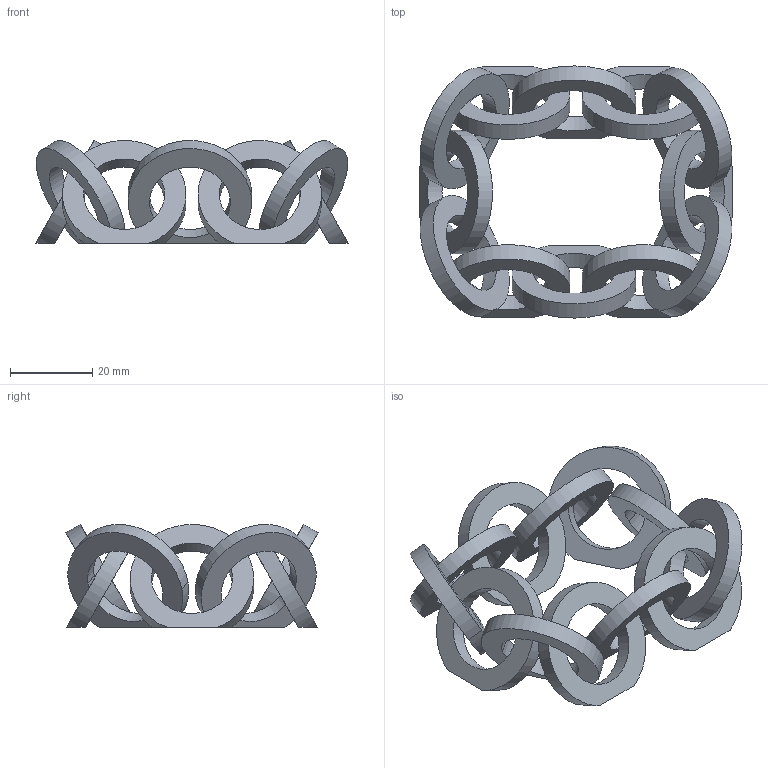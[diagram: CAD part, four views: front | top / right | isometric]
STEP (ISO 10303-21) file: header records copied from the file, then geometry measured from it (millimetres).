
FILE_DESCRIPTION(/* description */ (''),/* implementation_level */ '2;1');
FILE_NAME(/* name */ 'rings2',/* time_stamp */ '2010-05-27T20:34:12-07:00',/* author */ (''),/* organization */ (''),/* preprocessor_version */ 'ST-DEVELOPER v10',/* originating_system */ '',/* authorisation */ '');
FILE_SCHEMA (('CONFIG_CONTROL_DESIGN'));
Length unit declared in the file: millimetre
Products named in the file (1): 1
Bounding box: 76.09 x 61.36 x 25.06 mm (x, y, z)
Volume: 18141.2 mm3; surface area: 16595.4 mm2
Topology: 12 solids, 12 shells, 84 faces, 180 edges, 120 vertices
Faces by surface type: bspline 48, plane 36
Entity records: 2720 total; most frequent: CARTESIAN_POINT 1454, ORIENTED_EDGE 360, EDGE_CURVE 180, VERTEX_POINT 120, EDGE_LOOP 108, ADVANCED_FACE 84, FACE_OUTER_BOUND 84, B_SPLINE_CURVE_WITH_KNOTS 84
